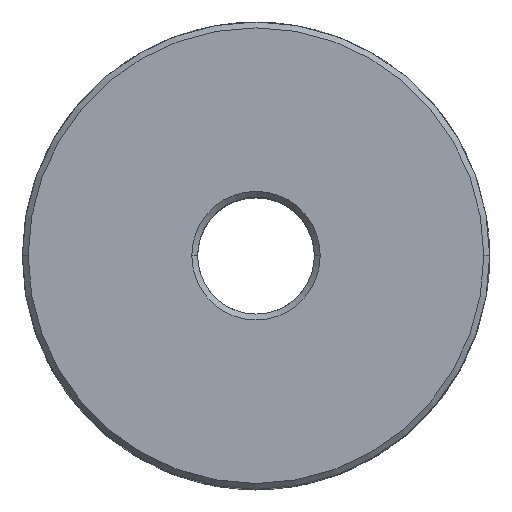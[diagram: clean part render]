
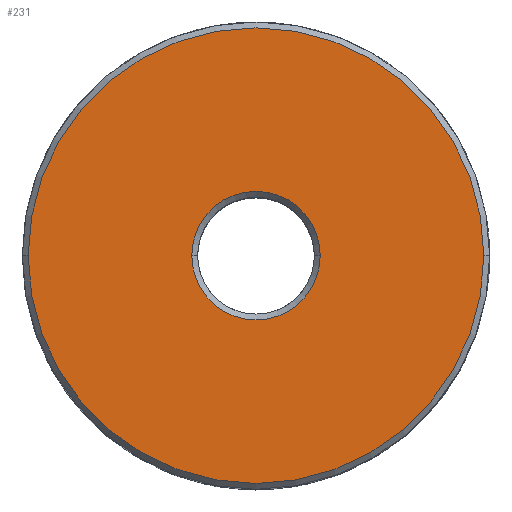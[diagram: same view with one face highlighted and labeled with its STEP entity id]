
A CAD part, top view. The second image highlights one B-rep face of the part: STEP entity #231.
In plain terms, the highlighted planar face has unit normal (0, 0, 1).
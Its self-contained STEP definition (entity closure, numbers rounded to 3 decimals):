
#111 = EDGE_CURVE ( 'NONE', #112, #113, #779, .T. ) ;
#112 = VERTEX_POINT ( 'NONE', #774 ) ;
#113 = VERTEX_POINT ( 'NONE', #773 ) ;
#206 = VERTEX_POINT ( 'NONE', #751 ) ;
#209 = VERTEX_POINT ( 'NONE', #750 ) ;
#231 = ADVANCED_FACE ( 'NONE', ( #1199, #984 ), #983, .T. ) ;
#232 = EDGE_LOOP ( 'NONE', ( #233, #234 ) ) ;
#233 = ORIENTED_EDGE ( 'NONE', *, *, #441, .T. ) ;
#234 = ORIENTED_EDGE ( 'NONE', *, *, #235, .T. ) ;
#235 = EDGE_CURVE ( 'NONE', #206, #209, #978, .T. ) ;
#236 = EDGE_LOOP ( 'NONE', ( #381, #383 ) ) ;
#381 = ORIENTED_EDGE ( 'NONE', *, *, #382, .T. ) ;
#382 = EDGE_CURVE ( 'NONE', #113, #112, #1251, .T. ) ;
#383 = ORIENTED_EDGE ( 'NONE', *, *, #111, .T. ) ;
#441 = EDGE_CURVE ( 'NONE', #209, #206, #1300, .T. ) ;
#750 = CARTESIAN_POINT ( 'NONE',  ( 5.5, 0., 35. ) ) ;
#751 = CARTESIAN_POINT ( 'NONE',  ( -5.5, 0., 35. ) ) ;
#773 = CARTESIAN_POINT ( 'NONE',  ( -19.5, 0., 35. ) ) ;
#774 = CARTESIAN_POINT ( 'NONE',  ( 19.5, 0., 35. ) ) ;
#775 = DIRECTION ( 'NONE',  ( 1., 0., 0. ) ) ;
#776 = DIRECTION ( 'NONE',  ( 0., 0., 1. ) ) ;
#777 = CARTESIAN_POINT ( 'NONE',  ( 0., 0., 35. ) ) ;
#778 = AXIS2_PLACEMENT_3D ( 'NONE', #777, #776, #775 ) ;
#779 = CIRCLE ( 'NONE', #778, 19.5 ) ;
#975 = DIRECTION ( 'NONE',  ( 0., 0., -1. ) ) ;
#976 = CARTESIAN_POINT ( 'NONE',  ( 0., 0., 35. ) ) ;
#977 = AXIS2_PLACEMENT_3D ( 'NONE', #976, #975, #1083 ) ;
#978 = CIRCLE ( 'NONE', #977, 5.5 ) ;
#979 = DIRECTION ( 'NONE',  ( 1., 0., 0. ) ) ;
#980 = DIRECTION ( 'NONE',  ( 0., 0., 1. ) ) ;
#981 = CARTESIAN_POINT ( 'NONE',  ( 0., 0., 35. ) ) ;
#982 = AXIS2_PLACEMENT_3D ( 'NONE', #981, #980, #979 ) ;
#983 = PLANE ( 'NONE',  #982 ) ;
#984 = FACE_OUTER_BOUND ( 'NONE', #236, .T. ) ;
#1083 = DIRECTION ( 'NONE',  ( 1., 0., 0. ) ) ;
#1199 = FACE_BOUND ( 'NONE', #232, .T. ) ;
#1247 = DIRECTION ( 'NONE',  ( 1., 0., 0. ) ) ;
#1248 = DIRECTION ( 'NONE',  ( 0., 0., 1. ) ) ;
#1249 = CARTESIAN_POINT ( 'NONE',  ( 0., 0., 35. ) ) ;
#1250 = AXIS2_PLACEMENT_3D ( 'NONE', #1249, #1248, #1247 ) ;
#1251 = CIRCLE ( 'NONE', #1250, 19.5 ) ;
#1297 = DIRECTION ( 'NONE',  ( 1., 0., 0. ) ) ;
#1298 = DIRECTION ( 'NONE',  ( 0., 0., -1. ) ) ;
#1299 = AXIS2_PLACEMENT_3D ( 'NONE', #1306, #1298, #1297 ) ;
#1300 = CIRCLE ( 'NONE', #1299, 5.5 ) ;
#1306 = CARTESIAN_POINT ( 'NONE',  ( 0., 0., 35. ) ) ;
